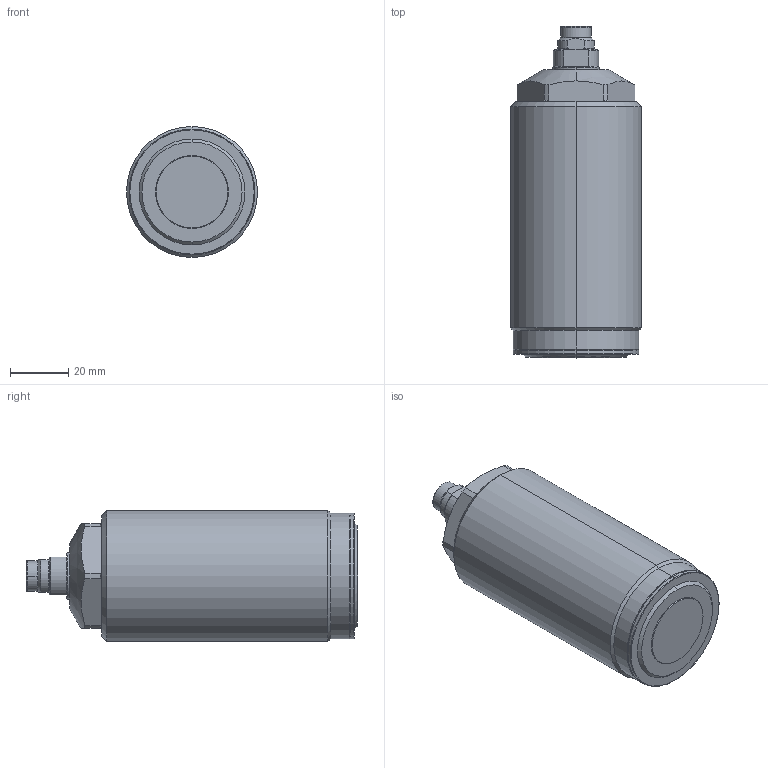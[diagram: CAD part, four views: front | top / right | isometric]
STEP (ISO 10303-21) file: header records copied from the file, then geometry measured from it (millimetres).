
FILE_DESCRIPTION(/* description */ (''),/* implementation_level */ '2;1');
FILE_NAME(/* name */ 'TSC06-QM.stp',/* time_stamp */ '2025-01-14T11:10:54+08:00',/* author */ (''),/* organization */ (''),/* preprocessor_version */ 'ST-DEVELOPER v16.7',/* originating_system */ 'SIEMENS PLM Software NX 12.0',/* authorisation */ '');
FILE_SCHEMA (('AUTOMOTIVE_DESIGN { 1 0 10303 214 3 1 1 1 }'));
Length unit declared in the file: millimetre
Products named in the file (8): XLC-M10_Oring123; XLC-M10SP_pin124; XLC-M10SP_contactbolt125; XLC-M10SP_pad126; TSC06-PQ-03127; TSC06-PQ-01128; XLC-M10_-M129; TSC06-QM_stp_stp
Assembly tree (7 placements, depth 3):
  TSC06-QM_stp_stp
    TSC06-PQ-01128
    TSC06-PQ-03127
    XLC-M10_-M129
      XLC-M10SP_pad126
      XLC-M10SP_contactbolt125
      XLC-M10SP_pin124
      XLC-M10_Oring123
Bounding box: 45 x 114 x 45 mm (x, y, z)
Volume: 149684.6 mm3; surface area: 20774.1 mm2
Topology: 6 solids, 6 shells, 163 faces, 368 edges, 226 vertices
Faces by surface type: cylinder 52, plane 39, cone 36, torus 30, sphere 6
Entity records: 5182 total; most frequent: CARTESIAN_POINT 1253, DIRECTION 866, ORIENTED_EDGE 736, AXIS2_PLACEMENT_3D 377, EDGE_CURVE 368, VERTEX_POINT 226, CIRCLE 206, EDGE_LOOP 182
